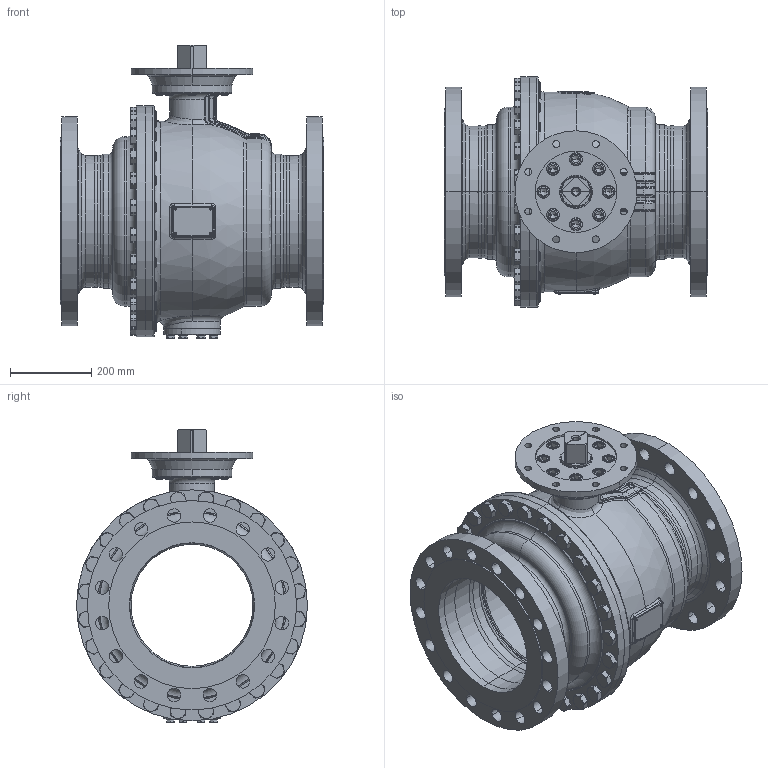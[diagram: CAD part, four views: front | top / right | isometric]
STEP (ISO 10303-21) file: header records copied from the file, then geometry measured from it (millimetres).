
FILE_DESCRIPTION((''),'2;1');
FILE_NAME('KHI-F_300-PN040-F25-4_SW0001','2026-02-05T14:53:15',('fischerkl'),('KLINGER'),'CREO PARAMETRIC BY PTC INC, 2023014','CREO PARAMETRIC BY PTC INC, 2023014','');
FILE_SCHEMA(('CONFIG_CONTROL_DESIGN'));
Products named in the file (1): KHI-F_300-PN040-F25-4_SW0001
Bounding box: 648 x 568 x 721.8 mm (x, y, z)
Volume: 35041566.6 mm3; surface area: 4805565.1 mm2
Topology: 1 solids, 4 shells, 3398 faces, 8608 edges, 5381 vertices
Faces by surface type: plane 1738, cylinder 775, cone 448, torus 297, bspline 111, sphere 29
Entity records: 144555 total; most frequent: CARTESIAN_POINT 63777, ORIENTED_EDGE 17164, DIRECTION 16560, EDGE_CURVE 8582, AXIS2_PLACEMENT_3D 6318, VERTEX_POINT 5381, VECTOR 3924, LINE 3924
